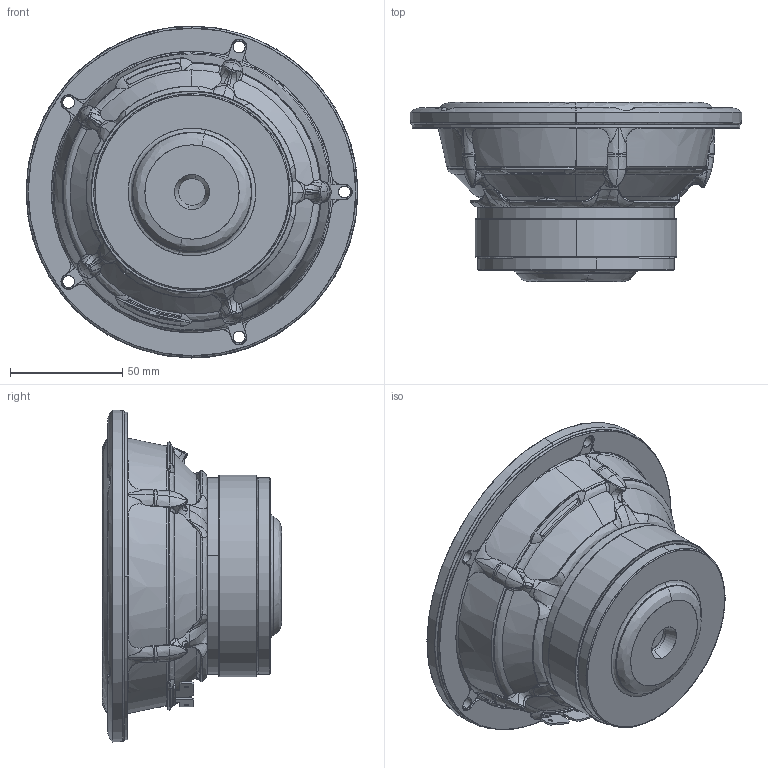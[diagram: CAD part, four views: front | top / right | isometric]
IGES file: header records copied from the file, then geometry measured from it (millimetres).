
Start section: SolidWorks IGES file using analytic representation for surfaces
Global section: file name: W:\TT\15W\15W-8530K01.IGS; native system: SolidWorks 2019; preprocessor: SolidWorks 2019; author: mhn; date: 201209.123517; units: millimetre
Bounding box: 148 x 79.9 x 148 mm (x, y, z)
Surface area: 72803.3 mm2 (no closed solid volume)
Topology: 0 solids, 0 shells, 891 faces, 12879 edges, 12839 vertices
Faces by surface type: bspline 644, revolution 247
